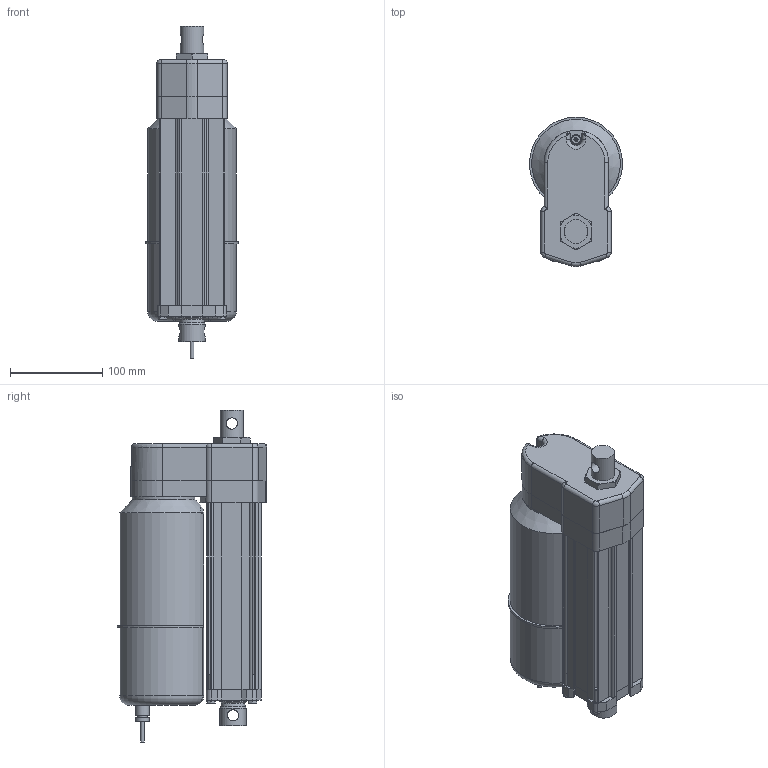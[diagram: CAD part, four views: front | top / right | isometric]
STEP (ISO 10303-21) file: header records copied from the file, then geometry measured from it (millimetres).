
FILE_DESCRIPTION (( 'STEP AP214' ), '1' );
FILE_NAME ('AA22-05A65M-15M0N-tollo.step', '2020-04-13T18:47:56', ( '' ), ( '' ), 'SwSTEP 2.0', 'SolidWorks 2010', '' );
FILE_SCHEMA (( 'AUTOMOTIVE_DESIGN' ));
Length unit declared in the file: millimetre
Products named in the file (8): Electrak-LA24-Motor-AA22-05A65M-15M0N-tollo_Electrak-LA24-Motor-AA22-05A65M-15M0N-tollo; Electrak-LA24-Rear-AA22-05A65M-15M0N-tollo_Electrak-LA24-Rear-AA22-05A65M-15M0N-tollo; Electrak-LA24-Tube-AA22-05A65M-15M0N-tollo_Electrak-LA24-Tube-AA22-05A65M-15M0N-tollo; Electrak-LA24-Rod-AA22-05A65M-15M0N-tollo_Electrak-LA24-Rod-AA22-05A65M-15M0N-tollo; Electrak-LA24-Plate-AA22-05A65M-15M0N-tollo_Electrak-LA24-Plate-AA22-05A65M-15M0N-tollo; Screw-MFX-H-M5_Screw-MFX-H-M5x24H; Screw-M6S-M5-AA22-05A65M-15M0N-tollo_Screw-M6S-M5-AA22-05A65M-15M0N-tollo; AA22-05A65M-15M0N-tollo
Assembly tree (10 placements, depth 2):
  AA22-05A65M-15M0N-tollo
    Electrak-LA24-Rear-AA22-05A65M-15M0N-tollo_Electrak-LA24-Rear-AA22-05A65M-15M0N-tollo
    Screw-M6S-M5-AA22-05A65M-15M0N-tollo_Screw-M6S-M5-AA22-05A65M-15M0N-tollo  x4
    Screw-MFX-H-M5_Screw-MFX-H-M5x24H
    Electrak-LA24-Plate-AA22-05A65M-15M0N-tollo_Electrak-LA24-Plate-AA22-05A65M-15M0N-tollo
    Electrak-LA24-Rod-AA22-05A65M-15M0N-tollo_Electrak-LA24-Rod-AA22-05A65M-15M0N-tollo
    Electrak-LA24-Tube-AA22-05A65M-15M0N-tollo_Electrak-LA24-Tube-AA22-05A65M-15M0N-tollo
    Electrak-LA24-Motor-AA22-05A65M-15M0N-tollo_Electrak-LA24-Motor-AA22-05A65M-15M0N-tollo
Bounding box: 100.99 x 162.5 x 360.3 mm (x, y, z)
Volume: 2541626.5 mm3; surface area: 290902.6 mm2
Topology: 10 solids, 10 shells, 353 faces, 886 edges, 572 vertices
Faces by surface type: plane 174, cylinder 128, cone 31, torus 15, bspline 3, sphere 2
Full cylindrical faces by diameter (mm): 4 x1, 4.126 x5, 4.8 x6, 5 x5, 5.6 x4, 7.878 x4, 9.3 x1, 10 x1, 12.2 x2, 15 x2, 25.4 x1, 28.6 x4, 47.625 x1, 68 x1
Entity records: 9633 total; most frequent: CARTESIAN_POINT 2397, DIRECTION 1446, ORIENTED_EDGE 1338, EDGE_CURVE 669, AXIS2_PLACEMENT_3D 527, VERTEX_POINT 460, LINE 392, VECTOR 392
